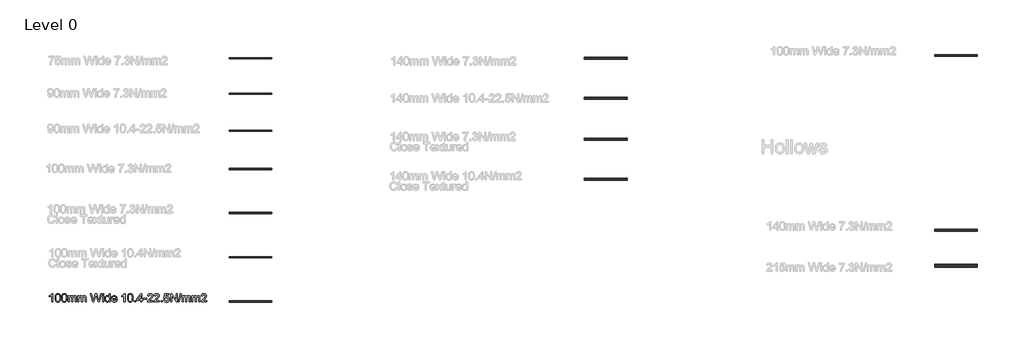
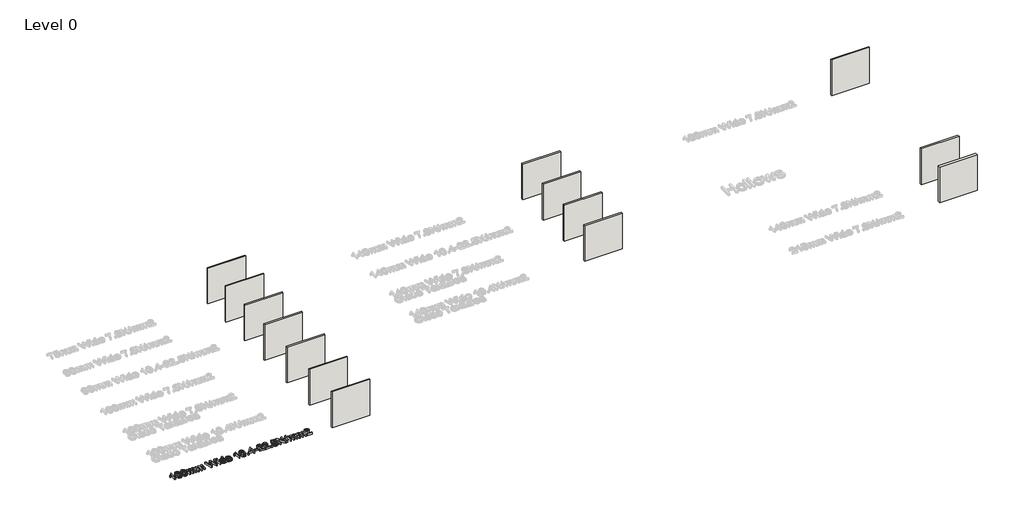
# One storey, part 1 of 14: 14 walls, 1 proxy.
"""IFC4 building model written with IfcOpenShell, lengths in millimetres."""

from ifc_helpers import new_model, si_unit, origin, origin_with_axes, place, context, project, spatial, polyline, outline, extrude, element, save

model = new_model("IFC4")

# Units and contexts
model_context = context("Model", 3, world=origin())
ifc_project = project(units=[si_unit("LENGTHUNIT", "METRE", prefix="MILLI")], contexts=[model_context])

# Site, building, storey
site = spatial("IfcSite", under=ifc_project)
building = spatial("IfcBuilding", under=site)
storey = spatial("IfcBuildingStorey", under=building, Name="Level 0", Elevation=0.0)

# Proxy
placement = place(None, origin())
element("IfcBuildingElementProxy", 1, Name="600mm Arial", ObjectType="600mm Arial", at=placement, inside=storey, context=model_context, shape_type="SweptSolid", body=[
    extrude(outline(polyline([(-37562.7740855, 3003.9065647), (-37636.6202394, 3003.9065647), (-37636.6202394, 3464.2911801), (-37667.4495663, 3439.3572858), (-37706.5721625, 3414.4594493), (-37747.641874, 3392.698632), (-37784.3125471, 3377.1757955), (-37784.3125471, 3446.9834878), (-37726.313749, 3478.5339685), (-37676.0673548, 3516.0700262), (-37636.4579798, 3555.9858916), (-37610.3702394, 3594.6757955), (-37562.7740855, 3594.6757955), (-37562.7740855, 3003.9065647)])), origin_with_axes(), (0.0, 0.0, 1.0), 150.0),
    extrude(outline(polyline([(-37387.3894701, 3294.5315647), (-37381.9627875, 3389.0928628), (-37375.1794341, 3429.1935238), (-37365.6827394, 3464.5075262), (-37353.5132682, 3495.3233315), (-37338.7115855, 3521.9294012), (-37321.2776913, 3544.3257354), (-37301.2115855, 3562.5123339), (-37278.4456601, 3576.5838483), (-37252.9123067, 3586.6349301), (-37224.6115254, 3592.6655791), (-37193.5433163, 3594.6757955), (-37148.0385086, 3589.9161801), (-37107.2933163, 3575.6373339), (-37073.2187971, 3552.3981512), (-37047.7260086, 3520.7575262), (-37028.4712009, 3480.9858916), (-37013.110624, 3433.3536801), (-37003.0505278, 3372.8669012), (-36999.6971625, 3294.5315647), (-37005.0697586, 3200.511132), (-37011.7855038, 3160.5456873), (-37021.1875471, 3125.276757), (-37033.2623668, 3094.4474301), (-37047.9964413, 3067.8007955), (-37065.3897706, 3045.3368531), (-37085.4423548, 3027.0556031), (-37108.2353235, 3012.8894373), (-37133.8498067, 3002.7707474), (-37162.2858043, 2996.6995334), (-37193.5433163, 2994.6757955), (-37234.2163932, 2998.1914205), (-37270.2740855, 3008.7382955), (-37301.7163932, 3026.3164205), (-37328.5433163, 3050.9257955), (-37354.2885086, 3095.4119733), (-37372.6779317, 3150.8416608), (-37383.7115855, 3217.214858), (-37387.3894701, 3294.5315647)]), holes=[polyline([(-37313.5433163, 3294.6757955), (-37311.3798548, 3230.4795815), (-37304.8894701, 3178.5159397), (-37294.0721625, 3138.78487), (-37278.9279317, 3111.2863724), (-37260.610624, 3092.5769373), (-37240.2740855, 3079.2130551), (-37217.9183163, 3071.1947257), (-37193.5433163, 3068.5219493), (-37169.1683163, 3071.2037402), (-37146.8125471, 3079.2491128), (-37126.4760086, 3092.6580671), (-37108.1587009, 3111.4306031), (-37093.0144701, 3138.9741729), (-37082.1971625, 3178.6962281), (-37075.7067778, 3230.596769), (-37073.5433163, 3294.6757955), (-37075.6346625, 3357.1727906), (-37081.9087009, 3408.2214685), (-37092.3654317, 3447.8218291), (-37107.0048548, 3475.9738724), (-37125.0156721, 3495.5982714), (-37145.5865855, 3509.6156993), (-37168.7175951, 3518.026156), (-37194.4087009, 3520.8296416), (-37218.657499, 3518.3596897), (-37240.6346625, 3510.9498339), (-37260.3401913, 3498.6000743), (-37277.7740855, 3481.3104108), (-37293.423124, 3450.6613724), (-37304.6010086, 3409.339257), (-37311.3077394, 3357.3440647), (-37313.5433163, 3294.6757955)])]), origin_with_axes(), (0.0, 0.0, 1.0), 150.0),
    extrude(outline(polyline([(-36935.0817778, 3294.5315647), (-36929.6550951, 3389.0928628), (-36922.8717418, 3429.1935238), (-36913.3750471, 3464.5075262), (-36901.2055759, 3495.3233315), (-36886.4038932, 3521.9294012), (-36868.969999, 3544.3257354), (-36848.9038932, 3562.5123339), (-36826.1379677, 3576.5838483), (-36800.6046144, 3586.6349301), (-36772.3038331, 3592.6655791), (-36741.235624, 3594.6757955), (-36695.7308163, 3589.9161801), (-36654.985624, 3575.6373339), (-36620.9111048, 3552.3981512), (-36595.4183163, 3520.7575262), (-36576.1635086, 3480.9858916), (-36560.8029317, 3433.3536801), (-36550.7428355, 3372.8669012), (-36547.3894701, 3294.5315647), (-36552.7620663, 3200.511132), (-36559.4778115, 3160.5456873), (-36568.8798548, 3125.276757), (-36580.9546745, 3094.4474301), (-36595.688749, 3067.8007955), (-36613.0820783, 3045.3368531), (-36633.1346625, 3027.0556031), (-36655.9276312, 3012.8894373), (-36681.5421144, 3002.7707474), (-36709.978112, 2996.6995334), (-36741.235624, 2994.6757955), (-36781.9087009, 2998.1914205), (-36817.9663932, 3008.7382955), (-36849.4087009, 3026.3164205), (-36876.235624, 3050.9257955), (-36901.9808163, 3095.4119733), (-36920.3702394, 3150.8416608), (-36931.4038932, 3217.214858), (-36935.0817778, 3294.5315647)]), holes=[polyline([(-36861.235624, 3294.6757955), (-36859.0721625, 3230.4795815), (-36852.5817778, 3178.5159397), (-36841.7644701, 3138.78487), (-36826.6202394, 3111.2863724), (-36808.3029317, 3092.5769373), (-36787.9663932, 3079.2130551), (-36765.610624, 3071.1947257), (-36741.235624, 3068.5219493), (-36716.860624, 3071.2037402), (-36694.5048548, 3079.2491128), (-36674.1683163, 3092.6580671), (-36655.8510086, 3111.4306031), (-36640.7067778, 3138.9741729), (-36629.8894701, 3178.6962281), (-36623.3990855, 3230.596769), (-36621.235624, 3294.6757955), (-36623.3269701, 3357.1727906), (-36629.6010086, 3408.2214685), (-36640.0577394, 3447.8218291), (-36654.6971625, 3475.9738724), (-36672.7079798, 3495.5982714), (-36693.2788932, 3509.6156993), (-36716.4099028, 3518.026156), (-36742.1010086, 3520.8296416), (-36766.3498067, 3518.3596897), (-36788.3269701, 3510.9498339), (-36808.032499, 3498.6000743), (-36825.4663932, 3481.3104108), (-36841.1154317, 3450.6613724), (-36852.2933163, 3409.339257), (-36859.0000471, 3357.3440647), (-36861.235624, 3294.6757955)])]), origin_with_axes(), (0.0, 0.0, 1.0), 150.0),
    extrude(outline(polyline([(-36464.3125471, 3003.9065647), (-36464.3125471, 3437.7527185), (-36390.4663932, 3437.7527185), (-36390.4663932, 3366.3584878), (-36368.2548548, 3399.1529589), (-36339.6971625, 3424.8440647), (-36305.766874, 3441.448632), (-36267.4375471, 3446.9834878), (-36226.3678355, 3441.3404589), (-36208.8888692, 3434.2866729), (-36193.4471625, 3424.4113724), (-36168.8558163, 3397.3140166), (-36152.7740855, 3361.1661801), (-36125.8570182, 3398.7112522), (-36095.1538932, 3425.5291608), (-36060.6647105, 3441.619906), (-36022.3894701, 3446.9834878), (-35992.8266697, 3444.7524181), (-35966.8786528, 3438.0592089), (-35944.5454197, 3426.9038604), (-35925.8269701, 3411.2863724), (-35911.0297947, 3391.0264565), (-35900.4603836, 3365.9438243), (-35894.118737, 3336.0384757), (-35892.0048548, 3301.3104108), (-35892.0048548, 3003.9065647), (-35965.8510086, 3003.9065647), (-35965.8510086, 3269.5796416), (-35967.563749, 3306.4125743), (-35972.7019701, 3331.2382955), (-35982.329374, 3348.2394974), (-35997.5096625, 3361.5988724), (-36017.0349028, 3370.2527185), (-36039.6971625, 3373.1373339), (-36060.6241456, 3371.2893772), (-36079.7031721, 3365.745507), (-36096.9342418, 3356.5057233), (-36112.3173548, 3343.5700262), (-36124.9690976, 3326.5598099), (-36134.0060567, 3305.0964685), (-36139.4282322, 3279.1800022), (-36141.235624, 3248.8104108), (-36141.235624, 3003.9065647), (-36215.0817778, 3003.9065647), (-36215.0817778, 3277.8007955), (-36219.3546144, 3319.5556031), (-36232.173124, 3349.339257), (-36242.0844822, 3359.7509156), (-36254.7272105, 3367.1878147), (-36270.1013091, 3371.6499541), (-36288.2067778, 3373.1373339), (-36316.6562971, 3369.1709878), (-36342.8702394, 3357.2719493), (-36364.5048548, 3337.7286801), (-36379.2163932, 3310.8296416), (-36387.6538932, 3273.5099301), (-36390.4663932, 3222.7046416), (-36390.4663932, 3003.9065647), (-36464.3125471, 3003.9065647)])), origin_with_axes(), (0.0, 0.0, 1.0), 150.0),
    extrude(outline(polyline([(-35781.235624, 3003.9065647), (-35781.235624, 3437.7527185), (-35707.3894701, 3437.7527185), (-35707.3894701, 3366.3584878), (-35685.1779317, 3399.1529589), (-35656.6202394, 3424.8440647), (-35622.6899509, 3441.448632), (-35584.360624, 3446.9834878), (-35543.2909125, 3441.3404589), (-35525.8119461, 3434.2866729), (-35510.3702394, 3424.4113724), (-35485.7788932, 3397.3140166), (-35469.6971625, 3361.1661801), (-35442.7800951, 3398.7112522), (-35412.0769701, 3425.5291608), (-35377.5877875, 3441.619906), (-35339.3125471, 3446.9834878), (-35309.7497466, 3444.7524181), (-35283.8017298, 3438.0592089), (-35261.4684966, 3426.9038604), (-35242.7500471, 3411.2863724), (-35227.9528716, 3391.0264565), (-35217.3834605, 3365.9438243), (-35211.0418139, 3336.0384757), (-35208.9279317, 3301.3104108), (-35208.9279317, 3003.9065647), (-35282.7740855, 3003.9065647), (-35282.7740855, 3269.5796416), (-35284.4868259, 3306.4125743), (-35289.6250471, 3331.2382955), (-35299.2524509, 3348.2394974), (-35314.4327394, 3361.5988724), (-35333.9579798, 3370.2527185), (-35356.6202394, 3373.1373339), (-35377.5472226, 3371.2893772), (-35396.626249, 3365.745507), (-35413.8573187, 3356.5057233), (-35429.2404317, 3343.5700262), (-35441.8921745, 3326.5598099), (-35450.9291336, 3305.0964685), (-35456.3513091, 3279.1800022), (-35458.1587009, 3248.8104108), (-35458.1587009, 3003.9065647), (-35532.0048548, 3003.9065647), (-35532.0048548, 3277.8007955), (-35536.2776913, 3319.5556031), (-35549.0962009, 3349.339257), (-35559.0075591, 3359.7509156), (-35571.6502875, 3367.1878147), (-35587.024386, 3371.6499541), (-35605.1298548, 3373.1373339), (-35633.579374, 3369.1709878), (-35659.7933163, 3357.2719493), (-35681.4279317, 3337.7286801), (-35696.1394701, 3310.8296416), (-35704.5769701, 3273.5099301), (-35707.3894701, 3222.7046416), (-35707.3894701, 3003.9065647), (-35781.235624, 3003.9065647)])), origin_with_axes(), (0.0, 0.0, 1.0), 150.0),
    extrude(outline(polyline([(-34752.4375471, 3003.9065647), (-34913.5433163, 3594.6757955), (-34837.3894701, 3594.6757955), (-34743.9279317, 3206.4065647), (-34715.0817778, 3086.5507955), (-34684.2163932, 3192.5604108), (-34567.1010086, 3594.6757955), (-34457.3413932, 3594.6757955), (-34372.2452394, 3303.1854108), (-34335.7909125, 3195.0123339), (-34308.9279317, 3086.5507955), (-34280.9471625, 3202.9450262), (-34186.6202394, 3594.6757955), (-34110.4663932, 3594.6757955), (-34271.7163932, 3003.9065647), (-34350.610624, 3003.9065647), (-34492.2452394, 3459.6757955), (-34512.0048548, 3523.2815647), (-34534.2163932, 3446.6950262), (-34663.3029317, 3003.9065647), (-34752.4375471, 3003.9065647)])), origin_with_axes(), (0.0, 0.0, 1.0), 150.0),
    extrude(outline(polyline([(-34045.8510086, 3003.9065647), (-34045.8510086, 3437.7527185), (-33972.0048548, 3437.7527185), (-33972.0048548, 3003.9065647), (-34045.8510086, 3003.9065647)])), origin_with_axes(), (0.0, 0.0, 1.0), 150.0),
    extrude(outline(polyline([(-34045.8510086, 3520.8296416), (-34045.8510086, 3594.6757955), (-33972.0048548, 3594.6757955), (-33972.0048548, 3520.8296416), (-34045.8510086, 3520.8296416)])), origin_with_axes(), (0.0, 0.0, 1.0), 150.0),
    extrude(outline(polyline([(-33593.5433163, 3003.9065647), (-33593.5433163, 3073.5700262), (-33615.6376673, 3039.0538003), (-33642.4014894, 3014.3993531), (-33673.8347826, 2999.6066849), (-33709.9375471, 2994.6757955), (-33734.3125471, 2996.4606512), (-33757.6779317, 3001.8152185), (-33780.0337009, 3010.7394974), (-33801.3798548, 3023.2334878), (-33821.0493259, 3038.9230911), (-33838.3750471, 3057.4342089), (-33853.3570182, 3078.7668411), (-33865.9952394, 3102.9209878), (-33876.0282923, 3129.4369132), (-33883.1947586, 3157.854882), (-33888.9279317, 3220.3969493), (-33883.6454798, 3282.1637762), (-33867.798124, 3337.9450262), (-33855.9171144, 3362.7977906), (-33841.4038932, 3384.5676224), (-33824.2584605, 3403.2545214), (-33804.4808163, 3418.8584878), (-33782.7695783, 3431.1631753), (-33759.8233644, 3439.9522378), (-33735.6421745, 3445.2256753), (-33710.2260086, 3446.9834878), (-33674.0962009, 3441.9534397), (-33642.1490855, 3426.8632955), (-33615.0697586, 3403.7322858), (-33593.5433163, 3374.5796416), (-33593.5433163, 3594.6757955), (-33519.6971625, 3594.6757955), (-33519.6971625, 3003.9065647), (-33593.5433163, 3003.9065647)]), holes=[polyline([(-33815.0817778, 3220.6854108), (-33812.9994461, 3184.8756152), (-33806.7524509, 3153.8885358), (-33796.3407923, 3127.7241729), (-33781.7644701, 3106.3825262), (-33764.3576192, 3089.8185238), (-33745.454374, 3077.9870935), (-33725.0547346, 3070.8882354), (-33703.1587009, 3068.5219493), (-33681.1590014, 3070.7800623), (-33660.8810567, 3077.5544012), (-33642.3248668, 3088.8449661), (-33625.4904317, 3104.651757), (-33611.5135687, 3125.1009757), (-33601.5300951, 3150.3188243), (-33595.540011, 3180.3053027), (-33593.5433163, 3215.0604108), (-33595.5760687, 3253.1643772), (-33601.6743259, 3285.8416608), (-33611.8380879, 3313.0922618), (-33626.0673548, 3334.9161801), (-33643.2713812, 3351.6379349), (-33662.3594221, 3363.5820455), (-33683.3314774, 3370.7485118), (-33706.1875471, 3373.1373339), (-33728.516273, 3370.8431632), (-33748.9159125, 3363.9606512), (-33767.3864653, 3352.4897979), (-33783.9279317, 3336.4306031), (-33797.5577394, 3315.4315046), (-33807.2933163, 3289.1409397), (-33813.1346625, 3257.5589084), (-33815.0817778, 3220.6854108)])]), origin_with_axes(), (0.0, 0.0, 1.0), 150.0),
    extrude(outline(polyline([(-33105.1779317, 3133.1373339), (-33032.7740855, 3123.9065647), (-33043.8753476, 3094.9071656), (-33058.8618259, 3069.3512762), (-33077.7335206, 3047.2388964), (-33100.4904317, 3028.5700262), (-33126.8981841, 3013.7413003), (-33156.7224028, 3003.1493531), (-33189.9630879, 2996.7941849), (-33226.6202394, 2994.6757955), (-33272.4405519, 2998.331144), (-33313.266874, 3009.2971897), (-33349.0992057, 3027.5739325), (-33379.9375471, 3053.1613724), (-33404.736225, 3085.34737), (-33422.4495663, 3123.4197858), (-33433.0775711, 3167.37862), (-33436.6202394, 3217.2238724), (-33433.0415134, 3268.7593291), (-33422.3053355, 3314.183007), (-33404.4117057, 3353.494906), (-33379.360624, 3386.6950262), (-33348.6034125, 3413.0712281), (-33313.5913932, 3431.9113724), (-33274.3245663, 3443.2154589), (-33230.8029317, 3446.9834878), (-33188.6830399, 3443.2244733), (-33150.5925951, 3431.9474301), (-33116.5315976, 3413.152358), (-33086.5000471, 3386.839257), (-33061.9853235, 3353.7112522), (-33044.4748067, 3314.4714685), (-33033.9684966, 3269.119906), (-33030.4663932, 3217.6565647), (-33030.8990855, 3197.7527185), (-33362.7740855, 3197.7527185), (-33358.4967418, 3168.2845695), (-33349.9916336, 3142.4762762), (-33337.258761, 3120.3278387), (-33320.298124, 3101.839257), (-33300.0472226, 3087.2629349), (-33277.4435567, 3076.8512762), (-33252.4871264, 3070.604281), (-33225.1779317, 3068.5219493), (-33185.8750471, 3072.3801224), (-33152.7740855, 3083.9546416), (-33125.8750471, 3103.9666608), (-33105.1779317, 3133.1373339)]), holes=[polyline([(-33362.7740855, 3271.5988724), (-33104.3125471, 3271.5988724), (-33114.3005278, 3310.6132955), (-33122.891273, 3325.9558435), (-33133.8798548, 3338.5219493), (-33154.0180759, 3353.6661801), (-33176.9327394, 3364.4834878), (-33202.6238451, 3370.9738724), (-33231.0913932, 3373.1373339), (-33257.0574389, 3371.4110719), (-33280.8690375, 3366.2322858), (-33302.5261889, 3357.6009757), (-33322.0288932, 3345.5171416), (-33338.3945783, 3330.5396777), (-33350.6406721, 3313.2274781), (-33358.7671745, 3293.5805431), (-33362.7740855, 3271.5988724)])]), origin_with_axes(), (0.0, 0.0, 1.0), 150.0),
    extrude(outline(polyline([(-32467.3894701, 3003.9065647), (-32541.235624, 3003.9065647), (-32541.235624, 3464.2911801), (-32572.0649509, 3439.3572858), (-32611.1875471, 3414.4594493), (-32652.2572586, 3392.698632), (-32688.9279317, 3377.1757955), (-32688.9279317, 3446.9834878), (-32630.9291336, 3478.5339685), (-32580.6827394, 3516.0700262), (-32541.0733644, 3555.9858916), (-32514.985624, 3594.6757955), (-32467.3894701, 3594.6757955), (-32467.3894701, 3003.9065647)])), origin_with_axes(), (0.0, 0.0, 1.0), 150.0),
    extrude(outline(polyline([(-32292.0048548, 3294.5315647), (-32286.5781721, 3389.0928628), (-32279.7948187, 3429.1935238), (-32270.298124, 3464.5075262), (-32258.1286528, 3495.3233315), (-32243.3269701, 3521.9294012), (-32225.8930759, 3544.3257354), (-32205.8269701, 3562.5123339), (-32183.0610447, 3576.5838483), (-32157.5276913, 3586.6349301), (-32129.2269101, 3592.6655791), (-32098.1587009, 3594.6757955), (-32052.6538932, 3589.9161801), (-32011.9087009, 3575.6373339), (-31977.8341817, 3552.3981512), (-31952.3413932, 3520.7575262), (-31933.0865855, 3480.9858916), (-31917.7260086, 3433.3536801), (-31907.6659125, 3372.8669012), (-31904.3125471, 3294.5315647), (-31909.6851432, 3200.511132), (-31916.4008884, 3160.5456873), (-31925.8029317, 3125.276757), (-31937.8777514, 3094.4474301), (-31952.6118259, 3067.8007955), (-31970.0051552, 3045.3368531), (-31990.0577394, 3027.0556031), (-32012.8507081, 3012.8894373), (-32038.4651913, 3002.7707474), (-32066.9011889, 2996.6995334), (-32098.1587009, 2994.6757955), (-32138.8317778, 2998.1914205), (-32174.8894701, 3008.7382955), (-32206.3317778, 3026.3164205), (-32233.1587009, 3050.9257955), (-32258.9038932, 3095.4119733), (-32277.2933163, 3150.8416608), (-32288.3269701, 3217.214858), (-32292.0048548, 3294.5315647)]), holes=[polyline([(-32218.1587009, 3294.6757955), (-32215.9952394, 3230.4795815), (-32209.5048548, 3178.5159397), (-32198.6875471, 3138.78487), (-32183.5433163, 3111.2863724), (-32165.2260086, 3092.5769373), (-32144.8894701, 3079.2130551), (-32122.5337009, 3071.1947257), (-32098.1587009, 3068.5219493), (-32073.7837009, 3071.2037402), (-32051.4279317, 3079.2491128), (-32031.0913932, 3092.6580671), (-32012.7740855, 3111.4306031), (-31997.6298548, 3138.9741729), (-31986.8125471, 3178.6962281), (-31980.3221625, 3230.596769), (-31978.1587009, 3294.6757955), (-31980.2500471, 3357.1727906), (-31986.5240855, 3408.2214685), (-31996.9808163, 3447.8218291), (-32011.6202394, 3475.9738724), (-32029.6310567, 3495.5982714), (-32050.2019701, 3509.6156993), (-32073.3329798, 3518.026156), (-32099.0240855, 3520.8296416), (-32123.2728836, 3518.3596897), (-32145.2500471, 3510.9498339), (-32164.9555759, 3498.6000743), (-32182.3894701, 3481.3104108), (-32198.0385086, 3450.6613724), (-32209.2163932, 3409.339257), (-32215.923124, 3357.3440647), (-32218.1587009, 3294.6757955)])]), origin_with_axes(), (0.0, 0.0, 1.0), 150.0),
    extrude(outline(polyline([(-31802.7740855, 3003.9065647), (-31802.7740855, 3077.7527185), (-31728.9279317, 3077.7527185), (-31728.9279317, 3003.9065647), (-31802.7740855, 3003.9065647)])), origin_with_axes(), (0.0, 0.0, 1.0), 150.0),
    extrude(outline(polyline([(-31368.9279317, 3003.9065647), (-31368.9279317, 3142.3681031), (-31636.6202394, 3142.3681031), (-31636.6202394, 3216.214257), (-31350.4663932, 3585.4450262), (-31295.0817778, 3585.4450262), (-31295.0817778, 3216.214257), (-31221.235624, 3216.214257), (-31221.235624, 3142.3681031), (-31295.0817778, 3142.3681031), (-31295.0817778, 3003.9065647), (-31368.9279317, 3003.9065647)]), holes=[polyline([(-31368.9279317, 3216.214257), (-31368.9279317, 3444.3873339), (-31545.7548548, 3216.214257), (-31368.9279317, 3216.214257)])]), origin_with_axes(), (0.0, 0.0, 1.0), 150.0),
    extrude(outline(polyline([(-31175.0817778, 3179.2911801), (-31175.0817778, 3253.1373339), (-30944.3125471, 3253.1373339), (-30944.3125471, 3179.2911801), (-31175.0817778, 3179.2911801)])), origin_with_axes(), (0.0, 0.0, 1.0), 150.0),
    extrude(outline(polyline([(-30501.235624, 3077.7527185), (-30501.235624, 3003.9065647), (-30888.9279317, 3003.9065647), (-30887.3053355, 3029.9041608), (-30880.9952394, 3054.8200262), (-30862.7861048, 3094.6096897), (-30836.1394701, 3133.2094493), (-30797.5937971, 3173.6120935), (-30743.6875471, 3218.8104108), (-30664.0000471, 3289.5916608), (-30616.1875471, 3341.839257), (-30602.2422346, 3363.1854108), (-30592.2812971, 3384.2431031), (-30586.3047346, 3405.0123339), (-30584.3125471, 3425.4931031), (-30586.1920543, 3444.7614325), (-30591.8305759, 3462.4702666), (-30601.228112, 3478.6196056), (-30614.3846625, 3493.2094493), (-30630.5700591, 3505.2932834), (-30649.0541336, 3513.9245935), (-30669.836886, 3519.1033796), (-30692.9183163, 3520.8296416), (-30717.2347226, 3519.1439445), (-30738.9820182, 3514.0868531), (-30758.1602033, 3505.6583676), (-30774.7692778, 3493.8584878), (-30788.2052754, 3479.0838483), (-30797.8642298, 3461.7310839), (-30803.7461408, 3441.8001945), (-30805.8510086, 3419.2911801), (-30879.6971625, 3428.5219493), (-30873.3465014, 3466.6439445), (-30861.7945182, 3499.9522378), (-30845.0412129, 3528.4468291), (-30823.0865855, 3552.1277185), (-30796.4354437, 3570.7425022), (-30765.5925951, 3584.0387762), (-30730.5580399, 3592.0165406), (-30691.3317778, 3594.6757955), (-30651.7539533, 3591.7190647), (-30616.5300951, 3582.8488724), (-30585.6602033, 3568.0652185), (-30559.1442778, 3547.3681031), (-30537.8477033, 3522.2899781), (-30522.6358644, 3494.3632955), (-30513.508761, 3463.5880551), (-30510.4663932, 3429.964257), (-30513.7476432, 3394.6457474), (-30523.5913932, 3359.9402185), (-30541.0613451, 3324.6397378), (-30567.2212009, 3287.5363724), (-30608.9219221, 3243.2394974), (-30673.0144701, 3186.3584878), (-30757.9663932, 3115.3248339), (-30791.2837009, 3077.7527185), (-30501.235624, 3077.7527185)])), origin_with_axes(), (0.0, 0.0, 1.0), 150.0),
    extrude(outline(polyline([(-30048.9279317, 3077.7527185), (-30048.9279317, 3003.9065647), (-30436.6202394, 3003.9065647), (-30434.9976432, 3029.9041608), (-30428.6875471, 3054.8200262), (-30410.4784125, 3094.6096897), (-30383.8317778, 3133.2094493), (-30345.2861048, 3173.6120935), (-30291.3798548, 3218.8104108), (-30211.6923548, 3289.5916608), (-30163.8798548, 3341.839257), (-30149.9345423, 3363.1854108), (-30139.9736048, 3384.2431031), (-30133.9970423, 3405.0123339), (-30132.0048548, 3425.4931031), (-30133.884362, 3444.7614325), (-30139.5228836, 3462.4702666), (-30148.9204197, 3478.6196056), (-30162.0769701, 3493.2094493), (-30178.2623668, 3505.2932834), (-30196.7464413, 3513.9245935), (-30217.5291937, 3519.1033796), (-30240.610624, 3520.8296416), (-30264.9270302, 3519.1439445), (-30286.6743259, 3514.0868531), (-30305.852511, 3505.6583676), (-30322.4615855, 3493.8584878), (-30335.8975831, 3479.0838483), (-30345.5565375, 3461.7310839), (-30351.4384485, 3441.8001945), (-30353.5433163, 3419.2911801), (-30427.3894701, 3428.5219493), (-30421.0388091, 3466.6439445), (-30409.4868259, 3499.9522378), (-30392.7335206, 3528.4468291), (-30370.7788932, 3552.1277185), (-30344.1277514, 3570.7425022), (-30313.2849028, 3584.0387762), (-30278.2503476, 3592.0165406), (-30239.0240855, 3594.6757955), (-30199.446261, 3591.7190647), (-30164.2224028, 3582.8488724), (-30133.352511, 3568.0652185), (-30106.8365855, 3547.3681031), (-30085.540011, 3522.2899781), (-30070.3281721, 3494.3632955), (-30061.2010687, 3463.5880551), (-30058.1587009, 3429.964257), (-30061.4399509, 3394.6457474), (-30071.2837009, 3359.9402185), (-30088.7536528, 3324.6397378), (-30114.9135086, 3287.5363724), (-30156.6142298, 3243.2394974), (-30220.7067778, 3186.3584878), (-30305.6587009, 3115.3248339), (-30338.9760086, 3077.7527185), (-30048.9279317, 3077.7527185)])), origin_with_axes(), (0.0, 0.0, 1.0), 150.0),
    extrude(outline(polyline([(-29938.1587009, 3003.9065647), (-29938.1587009, 3077.7527185), (-29864.3125471, 3077.7527185), (-29864.3125471, 3003.9065647), (-29938.1587009, 3003.9065647)])), origin_with_axes(), (0.0, 0.0, 1.0), 150.0),
    extrude(outline(polyline([(-29744.3125471, 3160.8296416), (-29670.4663932, 3170.0604108), (-29664.9495663, 3146.3209277), (-29656.9087009, 3125.7274781), (-29646.3437971, 3108.2800623), (-29633.2548548, 3093.9786801), (-29617.6689173, 3082.8413604), (-29599.6130278, 3074.886132), (-29579.0871865, 3070.112995), (-29556.0913932, 3068.5219493), (-29527.9663932, 3070.7349902), (-29503.1587009, 3077.3741128), (-29481.6683163, 3088.4393171), (-29463.4952394, 3103.9306031), (-29449.0451192, 3123.081745), (-29438.7236048, 3145.1265166), (-29432.5306961, 3170.0649181), (-29430.4663932, 3197.8969493), (-29432.399987, 3224.2010358), (-29438.2007682, 3247.5844493), (-29447.868737, 3268.0471897), (-29461.4038932, 3285.589257), (-29478.8513091, 3299.6607714), (-29500.2560567, 3309.7118531), (-29525.618136, 3315.7425022), (-29554.9375471, 3317.7527185), (-29590.7608644, 3314.5435839), (-29619.7692778, 3304.9161801), (-29642.9363451, 3290.1685839), (-29661.235624, 3271.5988724), (-29735.0817778, 3280.8296416), (-29670.4663932, 3585.4450262), (-29384.3125471, 3585.4450262), (-29384.3125471, 3511.5988724), (-29610.7548548, 3511.5988724), (-29642.3413932, 3348.9065647), (-29616.2806961, 3367.5844493), (-29589.5889894, 3380.9257955), (-29562.266273, 3388.9306031), (-29534.3125471, 3391.5988724), (-29498.3495062, 3388.2905791), (-29465.3161528, 3378.3656993), (-29435.212487, 3361.824233), (-29408.0385086, 3338.6661801), (-29385.5430158, 3310.3068051), (-29369.4748067, 3278.1613724), (-29359.8338812, 3242.229882), (-29356.6202394, 3202.5123339), (-29359.5138692, 3164.2551224), (-29368.1947586, 3128.6661801), (-29382.6629076, 3095.745507), (-29402.9183163, 3065.4931031), (-29433.6034125, 3034.510531), (-29469.4087009, 3012.3801224), (-29510.3341817, 2999.1018772), (-29556.3798548, 2994.6757955), (-29594.4883283, 2997.5198459), (-29628.9099028, 3006.0519974), (-29659.6445783, 3020.2722498), (-29686.6923548, 3040.1806031), (-29709.196862, 3064.7854709), (-29726.3017298, 3093.0952666), (-29738.0069581, 3125.1099902), (-29744.3125471, 3160.8296416)])), origin_with_axes(), (0.0, 0.0, 1.0), 150.0),
    extrude(outline(polyline([(-29264.3125471, 3003.9065647), (-29264.3125471, 3594.6757955), (-29185.2740855, 3594.6757955), (-28876.6202394, 3126.6469493), (-28876.6202394, 3594.6757955), (-28802.7740855, 3594.6757955), (-28802.7740855, 3003.9065647), (-28881.8125471, 3003.9065647), (-29190.4663932, 3472.0796416), (-29190.4663932, 3003.9065647), (-29264.3125471, 3003.9065647)])), origin_with_axes(), (0.0, 0.0, 1.0), 150.0),
    extrude(outline(polyline([(-28738.1587009, 3003.9065647), (-28572.0048548, 3594.6757955), (-28505.3702394, 3594.6757955), (-28671.5240855, 3003.9065647), (-28738.1587009, 3003.9065647)])), origin_with_axes(), (0.0, 0.0, 1.0), 150.0),
    extrude(outline(polyline([(-28452.0048548, 3003.9065647), (-28452.0048548, 3437.7527185), (-28378.1587009, 3437.7527185), (-28378.1587009, 3366.3584878), (-28355.9471625, 3399.1529589), (-28327.3894701, 3424.8440647), (-28293.4591817, 3441.448632), (-28255.1298548, 3446.9834878), (-28214.0601432, 3441.3404589), (-28196.5811769, 3434.2866729), (-28181.1394701, 3424.4113724), (-28156.548124, 3397.3140166), (-28140.4663932, 3361.1661801), (-28113.5493259, 3398.7112522), (-28082.8462009, 3425.5291608), (-28048.3570182, 3441.619906), (-28010.0817778, 3446.9834878), (-27980.5189774, 3444.7524181), (-27954.5709605, 3438.0592089), (-27932.2377274, 3426.9038604), (-27913.5192778, 3411.2863724), (-27898.7221024, 3391.0264565), (-27888.1526913, 3365.9438243), (-27881.8110447, 3336.0384757), (-27879.6971625, 3301.3104108), (-27879.6971625, 3003.9065647), (-27953.5433163, 3003.9065647), (-27953.5433163, 3269.5796416), (-27955.2560567, 3306.4125743), (-27960.3942778, 3331.2382955), (-27970.0216817, 3348.2394974), (-27985.2019701, 3361.5988724), (-28004.7272105, 3370.2527185), (-28027.3894701, 3373.1373339), (-28048.3164533, 3371.2893772), (-28067.3954798, 3365.745507), (-28084.6265495, 3356.5057233), (-28100.0096625, 3343.5700262), (-28112.6614052, 3326.5598099), (-28121.6983644, 3305.0964685), (-28127.1205399, 3279.1800022), (-28128.9279317, 3248.8104108), (-28128.9279317, 3003.9065647), (-28202.7740855, 3003.9065647), (-28202.7740855, 3277.8007955), (-28207.0469221, 3319.5556031), (-28219.8654317, 3349.339257), (-28229.7767899, 3359.7509156), (-28242.4195182, 3367.1878147), (-28257.7936168, 3371.6499541), (-28275.8990855, 3373.1373339), (-28304.3486048, 3369.1709878), (-28330.5625471, 3357.2719493), (-28352.1971625, 3337.7286801), (-28366.9087009, 3310.8296416), (-28375.3462009, 3273.5099301), (-28378.1587009, 3222.7046416), (-28378.1587009, 3003.9065647), (-28452.0048548, 3003.9065647)])), origin_with_axes(), (0.0, 0.0, 1.0), 150.0),
    extrude(outline(polyline([(-27768.9279317, 3003.9065647), (-27768.9279317, 3437.7527185), (-27695.0817778, 3437.7527185), (-27695.0817778, 3366.3584878), (-27672.8702394, 3399.1529589), (-27644.3125471, 3424.8440647), (-27610.3822586, 3441.448632), (-27572.0529317, 3446.9834878), (-27530.9832201, 3441.3404589), (-27513.5042538, 3434.2866729), (-27498.0625471, 3424.4113724), (-27473.4712009, 3397.3140166), (-27457.3894701, 3361.1661801), (-27430.4724028, 3398.7112522), (-27399.7692778, 3425.5291608), (-27365.2800951, 3441.619906), (-27327.0048548, 3446.9834878), (-27297.4420543, 3444.7524181), (-27271.4940375, 3438.0592089), (-27249.1608043, 3426.9038604), (-27230.4423548, 3411.2863724), (-27215.6451793, 3391.0264565), (-27205.0757682, 3365.9438243), (-27198.7341216, 3336.0384757), (-27196.6202394, 3301.3104108), (-27196.6202394, 3003.9065647), (-27270.4663932, 3003.9065647), (-27270.4663932, 3269.5796416), (-27272.1791336, 3306.4125743), (-27277.3173548, 3331.2382955), (-27286.9447586, 3348.2394974), (-27302.1250471, 3361.5988724), (-27321.6502875, 3370.2527185), (-27344.3125471, 3373.1373339), (-27365.2395302, 3371.2893772), (-27384.3185567, 3365.745507), (-27401.5496264, 3356.5057233), (-27416.9327394, 3343.5700262), (-27429.5844822, 3326.5598099), (-27438.6214413, 3305.0964685), (-27444.0436168, 3279.1800022), (-27445.8510086, 3248.8104108), (-27445.8510086, 3003.9065647), (-27519.6971625, 3003.9065647), (-27519.6971625, 3277.8007955), (-27523.969999, 3319.5556031), (-27536.7885086, 3349.339257), (-27546.6998668, 3359.7509156), (-27559.3425951, 3367.1878147), (-27574.7166937, 3371.6499541), (-27592.8221625, 3373.1373339), (-27621.2716817, 3369.1709878), (-27647.485624, 3357.2719493), (-27669.1202394, 3337.7286801), (-27683.8317778, 3310.8296416), (-27692.2692778, 3273.5099301), (-27695.0817778, 3222.7046416), (-27695.0817778, 3003.9065647), (-27768.9279317, 3003.9065647)])), origin_with_axes(), (0.0, 0.0, 1.0), 150.0),
    extrude(outline(polyline([(-26725.8510086, 3077.7527185), (-26725.8510086, 3003.9065647), (-27113.5433163, 3003.9065647), (-27111.9207201, 3029.9041608), (-27105.610624, 3054.8200262), (-27087.4014894, 3094.6096897), (-27060.7548548, 3133.2094493), (-27022.2091817, 3173.6120935), (-26968.3029317, 3218.8104108), (-26888.6154317, 3289.5916608), (-26840.8029317, 3341.839257), (-26826.8576192, 3363.1854108), (-26816.8966817, 3384.2431031), (-26810.9201192, 3405.0123339), (-26808.9279317, 3425.4931031), (-26810.8074389, 3444.7614325), (-26816.4459605, 3462.4702666), (-26825.8434966, 3478.6196056), (-26839.0000471, 3493.2094493), (-26855.1854437, 3505.2932834), (-26873.6695182, 3513.9245935), (-26894.4522706, 3519.1033796), (-26917.5337009, 3520.8296416), (-26941.8501072, 3519.1439445), (-26963.5974028, 3514.0868531), (-26982.7755879, 3505.6583676), (-26999.3846625, 3493.8584878), (-27012.8206601, 3479.0838483), (-27022.4796144, 3461.7310839), (-27028.3615254, 3441.8001945), (-27030.4663932, 3419.2911801), (-27104.3125471, 3428.5219493), (-27097.961886, 3466.6439445), (-27086.4099028, 3499.9522378), (-27069.6565976, 3528.4468291), (-27047.7019701, 3552.1277185), (-27021.0508283, 3570.7425022), (-26990.2079798, 3584.0387762), (-26955.1734245, 3592.0165406), (-26915.9471625, 3594.6757955), (-26876.3693379, 3591.7190647), (-26841.1454798, 3582.8488724), (-26810.2755879, 3568.0652185), (-26783.7596625, 3547.3681031), (-26762.4630879, 3522.2899781), (-26747.251249, 3494.3632955), (-26738.1241456, 3463.5880551), (-26735.0817778, 3429.964257), (-26738.3630278, 3394.6457474), (-26748.2067778, 3359.9402185), (-26765.6767298, 3324.6397378), (-26791.8365855, 3287.5363724), (-26833.5373067, 3243.2394974), (-26897.6298548, 3186.3584878), (-26982.5817778, 3115.3248339), (-27015.8990855, 3077.7527185), (-26725.8510086, 3077.7527185)])), origin_with_axes(), (0.0, 0.0, 1.0), 150.0),
])

# Walls
element("IfcWall", 2, ObjectType="Intercrete_MasonryUnit_Solid-90mmWide_7.3N/mm2", at=placement, inside=storey, context=model_context, shape_type="SweptSolid", body=[
    extrude(outline(polyline([(-22145.1815717, 17605.3712416), (-25145.1815717, 17605.3712416), (-25145.1815717, 17695.3712416), (-22145.1815717, 17695.3712416), (-22145.1815717, 17605.3712416)])), origin_with_axes(), (0.0, 0.0, 1.0), 3000.0),
])
element("IfcWall", 3, ObjectType="Intercrete_MasonryUnit_Solid-75mmWide_7.3N/mm2", at=placement, inside=storey, context=model_context, shape_type="SweptSolid", body=[
    extrude(outline(polyline([(-22145.1815717, 20112.8712416), (-25145.1815717, 20112.8712416), (-25145.1815717, 20187.8712416), (-22145.1815717, 20187.8712416), (-22145.1815717, 20112.8712416)])), origin_with_axes(), (0.0, 0.0, 1.0), 3000.0),
])
element("IfcWall", 4, ObjectType="Intercrete_MasonryUnit_Solid-100mmWide_7.3N/mm2_CloseTextured", at=placement, inside=storey, context=model_context, shape_type="SweptSolid", body=[
    extrude(outline(polyline([(-22145.1815717, 9200.3712416), (-25145.1815717, 9200.3712416), (-25145.1815717, 9300.3712416), (-22145.1815717, 9300.3712416), (-22145.1815717, 9200.3712416)])), origin_with_axes(), (0.0, 0.0, 1.0), 3000.0),
])
element("IfcWall", 5, ObjectType="Intercrete_MasonryUnit_Solid-100mmWide_7.3N/mm2", at=placement, inside=storey, context=model_context, shape_type="SweptSolid", body=[
    extrude(outline(polyline([(-22145.1815717, 12300.3712416), (-25145.1815717, 12300.3712416), (-25145.1815717, 12400.3712416), (-22145.1815717, 12400.3712416), (-22145.1815717, 12300.3712416)])), origin_with_axes(), (0.0, 0.0, 1.0), 3000.0),
])
element("IfcWall", 6, ObjectType="Intercrete_MasonryUnit_Solid-90mmWide_10.4-22.5N/mm2", at=placement, inside=storey, context=model_context, shape_type="SweptSolid", body=[
    extrude(outline(polyline([(-22145.1815717, 15005.3712416), (-25145.1815717, 15005.3712416), (-25145.1815717, 15095.3712416), (-22145.1815717, 15095.3712416), (-22145.1815717, 15005.3712416)])), origin_with_axes(), (0.0, 0.0, 1.0), 3000.0),
])
element("IfcWall", 7, ObjectType="Intercrete_MasonryUnit_Solid-100mmWide_10.4-22.5N/mm2", at=placement, inside=storey, context=model_context, shape_type="SweptSolid", body=[
    extrude(outline(polyline([(-22145.1815717, 3000.3712416), (-25145.1815717, 3000.3712416), (-25145.1815717, 3100.3712416), (-22145.1815717, 3100.3712416), (-22145.1815717, 3000.3712416)])), origin_with_axes(), (0.0, 0.0, 1.0), 3000.0),
])
element("IfcWall", 8, ObjectType="Intercrete_MasonryUnit_Solid-100mmWide_10.4N/mm2_CloseTextured", at=placement, inside=storey, context=model_context, shape_type="SweptSolid", body=[
    extrude(outline(polyline([(-22145.1815717, 6100.3712416), (-25145.1815717, 6100.3712416), (-25145.1815717, 6200.3712416), (-22145.1815717, 6200.3712416), (-22145.1815717, 6100.3712416)])), origin_with_axes(), (0.0, 0.0, 1.0), 3000.0),
])
element("IfcWall", 9, ObjectType="Intercrete_MasonryUnit_Solid-140mmWide_7.3N/mm2", at=placement, inside=storey, context=model_context, shape_type="SweptSolid", body=[
    extrude(outline(polyline([(2853.1956478, 20080.3712416), (-146.8043522, 20080.3712416), (-146.8043522, 20220.3712416), (2853.1956478, 20220.3712416), (2853.1956478, 20080.3712416)])), origin_with_axes(), (0.0, 0.0, 1.0), 3000.0),
])
element("IfcWall", 10, ObjectType="Intercrete_MasonryUnit_Solid-140mmWide_10.4N/mm2_Close Textured", at=placement, inside=storey, context=model_context, shape_type="SweptSolid", body=[
    extrude(outline(polyline([(2853.1956478, 11580.3712416), (-146.8043522, 11580.3712416), (-146.8043522, 11720.3712416), (2853.1956478, 11720.3712416), (2853.1956478, 11580.3712416)])), origin_with_axes(), (0.0, 0.0, 1.0), 3000.0),
])
element("IfcWall", 11, ObjectType="Intercrete_MasonryUnit_Solid-140mmWide_7.3N/mm2_CloseTextured", at=placement, inside=storey, context=model_context, shape_type="SweptSolid", body=[
    extrude(outline(polyline([(2853.1956478, 14380.3712416), (-146.8043522, 14380.3712416), (-146.8043522, 14520.3712416), (2853.1956478, 14520.3712416), (2853.1956478, 14380.3712416)])), origin_with_axes(), (0.0, 0.0, 1.0), 3000.0),
])
element("IfcWall", 12, ObjectType="Intercrete_MasonryUnit_Solid-140mmWide_10.4-22.5N/mm2", at=placement, inside=storey, context=model_context, shape_type="SweptSolid", body=[
    extrude(outline(polyline([(2853.1956478, 17280.3712416), (-146.8043522, 17280.3712416), (-146.8043522, 17420.3712416), (2853.1956478, 17420.3712416), (2853.1956478, 17280.3712416)])), origin_with_axes(), (0.0, 0.0, 1.0), 3000.0),
])
element("IfcWall", 13, ObjectType="Intercrete_MasonryUnit_Hollows-215mmWide_7.3N/mm2", at=placement, inside=storey, context=model_context, shape_type="SweptSolid", body=[
    extrude(outline(polyline([(27498.347395, 5442.8712416), (24498.347395, 5442.8712416), (24498.347395, 5657.8712416), (27498.347395, 5657.8712416), (27498.347395, 5442.8712416)])), origin_with_axes(), (0.0, 0.0, 1.0), 3000.0),
])
element("IfcWall", 14, ObjectType="Intercrete_MasonryUnit_Hollows-140mmWide_7.3N/mm2", at=placement, inside=storey, context=model_context, shape_type="SweptSolid", body=[
    extrude(outline(polyline([(27498.347395, 7980.3712416), (24498.347395, 7980.3712416), (24498.347395, 8120.3712416), (27498.347395, 8120.3712416), (27498.347395, 7980.3712416)])), origin_with_axes(), (0.0, 0.0, 1.0), 3000.0),
])
element("IfcWall", 15, ObjectType="Intercrete_MasonryUnit_Cellular-100mmWide_7.3N/mm2", at=placement, inside=storey, context=model_context, shape_type="SweptSolid", body=[
    extrude(outline(polyline([(27498.347395, 20300.3712416), (24498.347395, 20300.3712416), (24498.347395, 20400.3712416), (27498.347395, 20400.3712416), (27498.347395, 20300.3712416)])), origin_with_axes(), (0.0, 0.0, 1.0), 3000.0),
])

save(model, "model.ifc")
